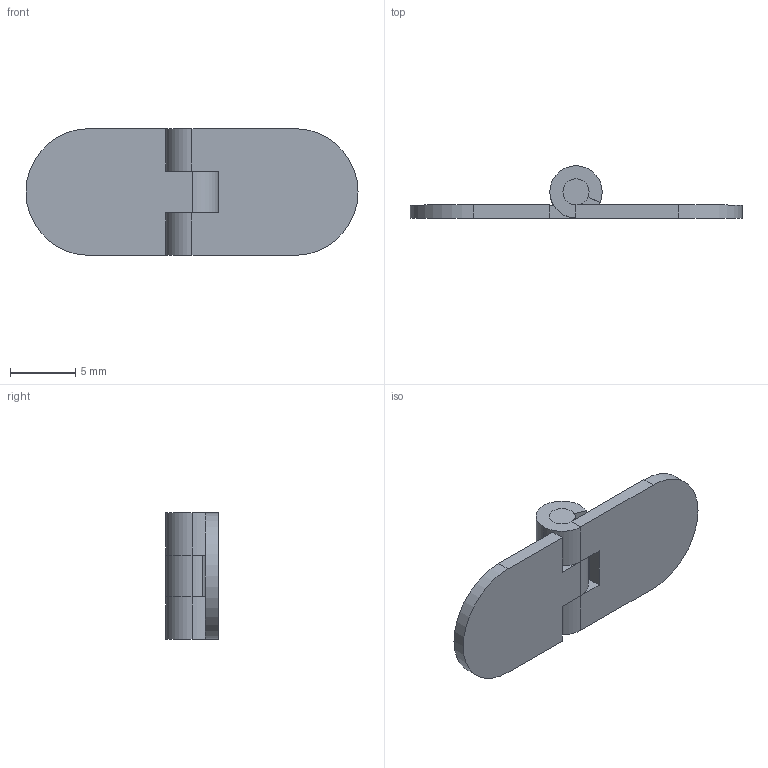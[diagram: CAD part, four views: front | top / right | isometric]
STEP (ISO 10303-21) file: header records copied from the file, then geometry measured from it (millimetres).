
FILE_DESCRIPTION (( 'STEP AP214' ), '1' );
FILE_NAME ('HL064.STEP', '2023-08-24T00:14:43', ( '' ), ( '' ), 'SwSTEP 2.0', 'SolidWorks 2019', '' );
FILE_SCHEMA (( 'AUTOMOTIVE_DESIGN' ));
Length unit declared in the file: millimetre
Products named in the file (4): HL064A; 种隊; HL064; HL064B
Assembly tree (3 placements, depth 2):
  HL064
    HL064B
    HL064A
    种隊
Bounding box: 25.4 x 4 x 9.7 mm (x, y, z)
Volume: 311.8 mm3; surface area: 761.3 mm2
Topology: 3 solids, 3 shells, 44 faces, 110 edges, 72 vertices
Faces by surface type: cylinder 22, plane 22
Entity records: 1480 total; most frequent: DIRECTION 254, CARTESIAN_POINT 232, ORIENTED_EDGE 220, EDGE_CURVE 110, AXIS2_PLACEMENT_3D 94, VERTEX_POINT 72, LINE 66, VECTOR 66
